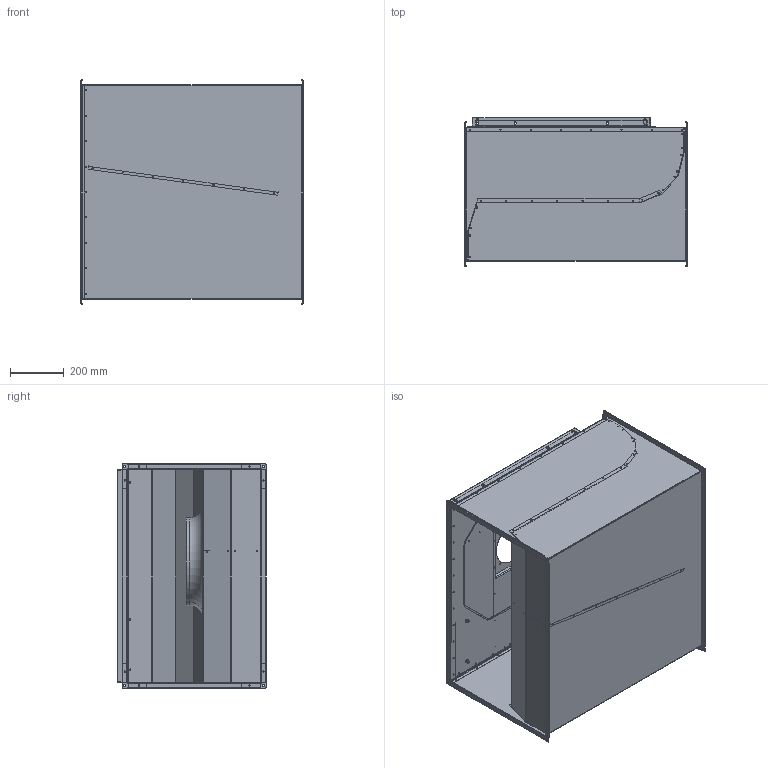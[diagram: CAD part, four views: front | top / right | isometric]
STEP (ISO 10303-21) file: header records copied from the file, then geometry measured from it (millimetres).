
FILE_DESCRIPTION (( 'STEP AP203' ), '1' );
FILE_NAME ('131370-00_KVR08050EC30.STEP', '2015-05-11T09:28:36', ( '' ), ( '' ), 'SwSTEP 2.0', 'SolidWorks 2012', '' );
FILE_SCHEMA (( 'CONFIG_CONTROL_DESIGN' ));
Length unit declared in the file: millimetre
Products named in the file (1): 131370-00_KVR08050EC30
Bounding box: 830 x 554.6 x 838.4 mm (x, y, z)
Surface area: 7733927.9 mm2 (no closed solid volume)
Topology: 0 solids, 83 shells, 790 faces, 3210 edges, 2441 vertices
Faces by surface type: cylinder 503, plane 270, torus 10, cone 6, bspline 1
Entity records: 35461 total; most frequent: CARTESIAN_POINT 7195, DIRECTION 6328, ORIENTED_EDGE 4678, EDGE_CURVE 3210, VERTEX_POINT 2441, AXIS2_PLACEMENT_3D 2396, CIRCLE 1606, LINE 1536
